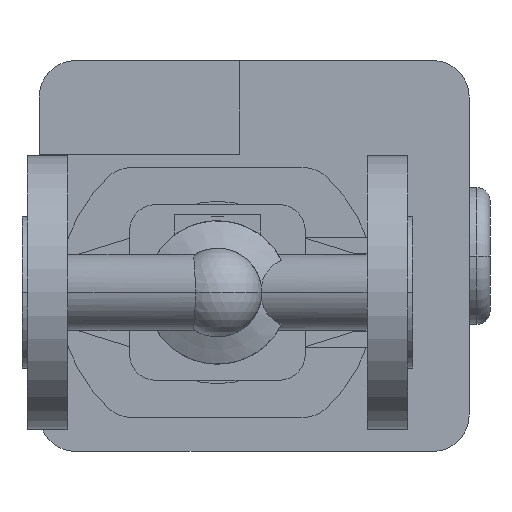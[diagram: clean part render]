
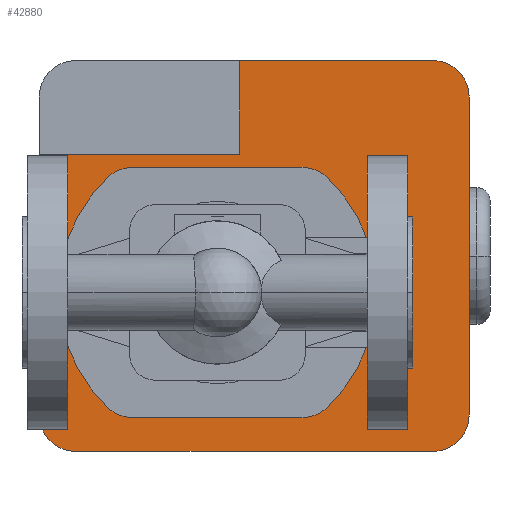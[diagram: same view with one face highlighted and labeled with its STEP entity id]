
A CAD part, front view. The second image highlights one B-rep face of the part: STEP entity #42880.
In plain terms, the highlighted planar face has unit normal (0, -1, 0).
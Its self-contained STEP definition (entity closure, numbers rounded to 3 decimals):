
#34620=CARTESIAN_POINT('',(134.96,305.,11.216));
#34630=VERTEX_POINT('',#34620);
#34660=CARTESIAN_POINT('',(125.,305.,0.));
#34670=DIRECTION('',(0.,1.,0.));
#34680=DIRECTION('',(0.,0.,1.));
#34690=AXIS2_PLACEMENT_3D('',#34660,#34670,#34680);
#34700=CIRCLE('',#34690,15.);
#34710=CARTESIAN_POINT('',(134.96,305.,-11.216));
#34720=VERTEX_POINT('',#34710);
#34730=EDGE_CURVE('',#34630,#34720,#34700,.T.);
#37450=CARTESIAN_POINT('',(117.116,305.,44.128));
#37460=VERTEX_POINT('',#37450);
#37490=CARTESIAN_POINT('',(75.,305.,0.));
#37500=DIRECTION('',(0.,1.,0.));
#37510=DIRECTION('',(0.69,0.,0.723));
#37520=AXIS2_PLACEMENT_3D('',#37490,#37500,#37510);
#37530=CIRCLE('',#37520,61.);
#37540=EDGE_CURVE('',#37460,#34630,#37530,.T.);
#37930=CARTESIAN_POINT('',(15.04,305.,-11.216));
#37940=VERTEX_POINT('',#37930);
#37970=CARTESIAN_POINT('',(25.,305.,0.));
#37980=DIRECTION('',(0.,1.,0.));
#37990=DIRECTION('',(0.,0.,-1.));
#38000=AXIS2_PLACEMENT_3D('',#37970,#37980,#37990);
#38010=CIRCLE('',#38000,15.);
#38020=CARTESIAN_POINT('',(15.04,305.,11.216));
#38030=VERTEX_POINT('',#38020);
#38040=EDGE_CURVE('',#37940,#38030,#38010,.T.);
#39030=CARTESIAN_POINT('',(32.884,305.,-44.128));
#39040=VERTEX_POINT('',#39030);
#39070=CARTESIAN_POINT('',(75.,305.,0.));
#39080=DIRECTION('',(0.,1.,0.));
#39090=DIRECTION('',(-0.69,0.,-0.723));
#39100=AXIS2_PLACEMENT_3D('',#39070,#39080,#39090);
#39110=CIRCLE('',#39100,61.);
#39120=EDGE_CURVE('',#39040,#37940,#39110,.T.);
#41340=CARTESIAN_POINT('',(75.,305.,0.));
#41350=DIRECTION('',(0.,1.,0.));
#41360=DIRECTION('',(0.,0.,1.));
#41370=AXIS2_PLACEMENT_3D('',#41340,#41350,#41360);
#41380=PLANE('',#41370);
#41390=ORIENTED_EDGE('',*,*,#37540,.T.);
#41400=CARTESIAN_POINT('',(107.45,305.,34.));
#41410=DIRECTION('',(0.,1.,0.));
#41420=DIRECTION('',(0.,0.,1.));
#41430=AXIS2_PLACEMENT_3D('',#41400,#41410,#41420);
#41440=CIRCLE('',#41430,14.);
#41450=CARTESIAN_POINT('',(107.45,305.,48.));
#41460=VERTEX_POINT('',#41450);
#41470=EDGE_CURVE('',#41460,#37460,#41440,.T.);
#41480=ORIENTED_EDGE('',*,*,#41470,.T.);
#41490=CARTESIAN_POINT('',(58.775,305.,48.));
#41500=DIRECTION('',(1.,0.,0.));
#41510=VECTOR('',#41500,1.);
#41520=LINE('',#41490,#41510);
#41530=CARTESIAN_POINT('',(42.55,305.,48.));
#41540=VERTEX_POINT('',#41530);
#41550=EDGE_CURVE('',#41540,#41460,#41520,.T.);
#41560=ORIENTED_EDGE('',*,*,#41550,.T.);
#41570=CARTESIAN_POINT('',(42.55,305.,34.));
#41580=DIRECTION('',(0.,1.,0.));
#41590=DIRECTION('',(-0.69,0.,0.723));
#41600=AXIS2_PLACEMENT_3D('',#41570,#41580,#41590);
#41610=CIRCLE('',#41600,14.);
#41620=CARTESIAN_POINT('',(32.884,305.,44.128));
#41630=VERTEX_POINT('',#41620);
#41640=EDGE_CURVE('',#41630,#41540,#41610,.T.);
#41650=ORIENTED_EDGE('',*,*,#41640,.T.);
#41660=CARTESIAN_POINT('',(75.,305.,0.));
#41670=DIRECTION('',(0.,1.,0.));
#41680=DIRECTION('',(-0.69,0.,-0.723));
#41690=AXIS2_PLACEMENT_3D('',#41660,#41670,#41680);
#41700=CIRCLE('',#41690,61.);
#41710=EDGE_CURVE('',#38030,#41630,#41700,.T.);
#41720=ORIENTED_EDGE('',*,*,#41710,.T.);
#41730=ORIENTED_EDGE('',*,*,#38040,.T.);
#41740=ORIENTED_EDGE('',*,*,#39120,.T.);
#41750=CARTESIAN_POINT('',(42.55,305.,-34.));
#41760=DIRECTION('',(0.,1.,0.));
#41770=DIRECTION('',(0.,0.,-1.));
#41780=AXIS2_PLACEMENT_3D('',#41750,#41760,#41770);
#41790=CIRCLE('',#41780,14.);
#41800=CARTESIAN_POINT('',(42.55,305.,-48.));
#41810=VERTEX_POINT('',#41800);
#41820=EDGE_CURVE('',#41810,#39040,#41790,.T.);
#41830=ORIENTED_EDGE('',*,*,#41820,.T.);
#41840=CARTESIAN_POINT('',(91.225,305.,-48.));
#41850=DIRECTION('',(-1.,0.,0.));
#41860=VECTOR('',#41850,1.);
#41870=LINE('',#41840,#41860);
#41880=CARTESIAN_POINT('',(107.45,305.,-48.));
#41890=VERTEX_POINT('',#41880);
#41900=EDGE_CURVE('',#41890,#41810,#41870,.T.);
#41910=ORIENTED_EDGE('',*,*,#41900,.T.);
#41920=CARTESIAN_POINT('',(107.45,305.,-34.));
#41930=DIRECTION('',(0.,1.,0.));
#41940=DIRECTION('',(0.69,0.,-0.723));
#41950=AXIS2_PLACEMENT_3D('',#41920,#41930,#41940);
#41960=CIRCLE('',#41950,14.);
#41970=CARTESIAN_POINT('',(117.116,305.,-44.128));
#41980=VERTEX_POINT('',#41970);
#41990=EDGE_CURVE('',#41980,#41890,#41960,.T.);
#42000=ORIENTED_EDGE('',*,*,#41990,.T.);
#42010=CARTESIAN_POINT('',(75.,305.,0.));
#42020=DIRECTION('',(0.,1.,0.));
#42030=DIRECTION('',(0.69,0.,0.723));
#42040=AXIS2_PLACEMENT_3D('',#42010,#42020,#42030);
#42050=CIRCLE('',#42040,61.);
#42060=EDGE_CURVE('',#34720,#41980,#42050,.T.);
#42070=ORIENTED_EDGE('',*,*,#42060,.T.);
#42080=ORIENTED_EDGE('',*,*,#34730,.T.);
#42090=EDGE_LOOP('',(#42080,#42070,#42000,#41910,#41830,#41740,#41730,
#41720,#41650,#41560,#41480,#41390));
#42100=FACE_BOUND('',#42090,.T.);
#42110=CARTESIAN_POINT('',(83.6,305.,26.5));
#42120=DIRECTION('',(0.,0.,-1.));
#42130=VECTOR('',#42120,1.);
#42140=LINE('',#42110,#42130);
#42150=CARTESIAN_POINT('',(83.6,305.,89.));
#42160=VERTEX_POINT('',#42150);
#42170=CARTESIAN_POINT('',(83.6,305.,53.));
#42180=VERTEX_POINT('',#42170);
#42190=EDGE_CURVE('',#42160,#42180,#42140,.T.);
#42200=ORIENTED_EDGE('',*,*,#42190,.T.);
#42210=CARTESIAN_POINT('',(20.6,305.,89.));
#42220=DIRECTION('',(1.,0.,0.));
#42230=VECTOR('',#42220,1.);
#42240=LINE('',#42210,#42230);
#42250=CARTESIAN_POINT('',(157.6,305.,89.));
#42260=VERTEX_POINT('',#42250);
#42270=EDGE_CURVE('',#42160,#42260,#42240,.T.);
#42280=ORIENTED_EDGE('',*,*,#42270,.F.);
#42290=CARTESIAN_POINT('',(157.6,305.,75.));
#42300=DIRECTION('',(0.,1.,0.));
#42310=DIRECTION('',(0.,0.,1.));
#42320=AXIS2_PLACEMENT_3D('',#42290,#42300,#42310);
#42330=CIRCLE('',#42320,14.);
#42340=CARTESIAN_POINT('',(171.6,305.,75.));
#42350=VERTEX_POINT('',#42340);
#42360=EDGE_CURVE('',#42260,#42350,#42330,.T.);
#42370=ORIENTED_EDGE('',*,*,#42360,.F.);
#42380=CARTESIAN_POINT('',(171.6,305.,75.));
#42390=DIRECTION('',(0.,0.,-1.));
#42400=VECTOR('',#42390,1.);
#42410=LINE('',#42380,#42400);
#42420=CARTESIAN_POINT('',(171.6,305.,-47.));
#42430=VERTEX_POINT('',#42420);
#42440=EDGE_CURVE('',#42350,#42430,#42410,.T.);
#42450=ORIENTED_EDGE('',*,*,#42440,.F.);
#42460=CARTESIAN_POINT('',(157.6,305.,-47.));
#42470=DIRECTION('',(0.,1.,0.));
#42480=DIRECTION('',(1.,0.,0.));
#42490=AXIS2_PLACEMENT_3D('',#42460,#42470,#42480);
#42500=CIRCLE('',#42490,14.);
#42510=CARTESIAN_POINT('',(157.6,305.,-61.));
#42520=VERTEX_POINT('',#42510);
#42530=EDGE_CURVE('',#42430,#42520,#42500,.T.);
#42540=ORIENTED_EDGE('',*,*,#42530,.F.);
#42550=CARTESIAN_POINT('',(157.6,305.,-61.));
#42560=DIRECTION('',(-1.,0.,0.));
#42570=VECTOR('',#42560,1.);
#42580=LINE('',#42550,#42570);
#42590=CARTESIAN_POINT('',(20.6,305.,-61.));
#42600=VERTEX_POINT('',#42590);
#42610=EDGE_CURVE('',#42520,#42600,#42580,.T.);
#42620=ORIENTED_EDGE('',*,*,#42610,.F.);
#42630=CARTESIAN_POINT('',(20.6,305.,-47.));
#42640=DIRECTION('',(0.,1.,0.));
#42650=DIRECTION('',(0.,0.,-1.));
#42660=AXIS2_PLACEMENT_3D('',#42630,#42640,#42650);
#42670=CIRCLE('',#42660,14.);
#42680=CARTESIAN_POINT('',(6.6,305.,-47.));
#42690=VERTEX_POINT('',#42680);
#42700=EDGE_CURVE('',#42600,#42690,#42670,.T.);
#42710=ORIENTED_EDGE('',*,*,#42700,.F.);
#42720=CARTESIAN_POINT('',(6.6,305.,-47.));
#42730=DIRECTION('',(0.,0.,1.));
#42740=VECTOR('',#42730,1.);
#42750=LINE('',#42720,#42740);
#42760=CARTESIAN_POINT('',(6.6,305.,53.));
#42770=VERTEX_POINT('',#42760);
#42780=EDGE_CURVE('',#42690,#42770,#42750,.T.);
#42790=ORIENTED_EDGE('',*,*,#42780,.F.);
#42800=CARTESIAN_POINT('',(40.3,305.,53.));
#42810=DIRECTION('',(-1.,0.,0.));
#42820=VECTOR('',#42810,1.);
#42830=LINE('',#42800,#42820);
#42840=EDGE_CURVE('',#42180,#42770,#42830,.T.);
#42850=ORIENTED_EDGE('',*,*,#42840,.T.);
#42860=EDGE_LOOP('',(#42850,#42790,#42710,#42620,#42540,#42450,#42370,
#42280,#42200));
#42870=FACE_OUTER_BOUND('',#42860,.T.);
#42880=ADVANCED_FACE('',(#42100,#42870),#41380,.F.);
